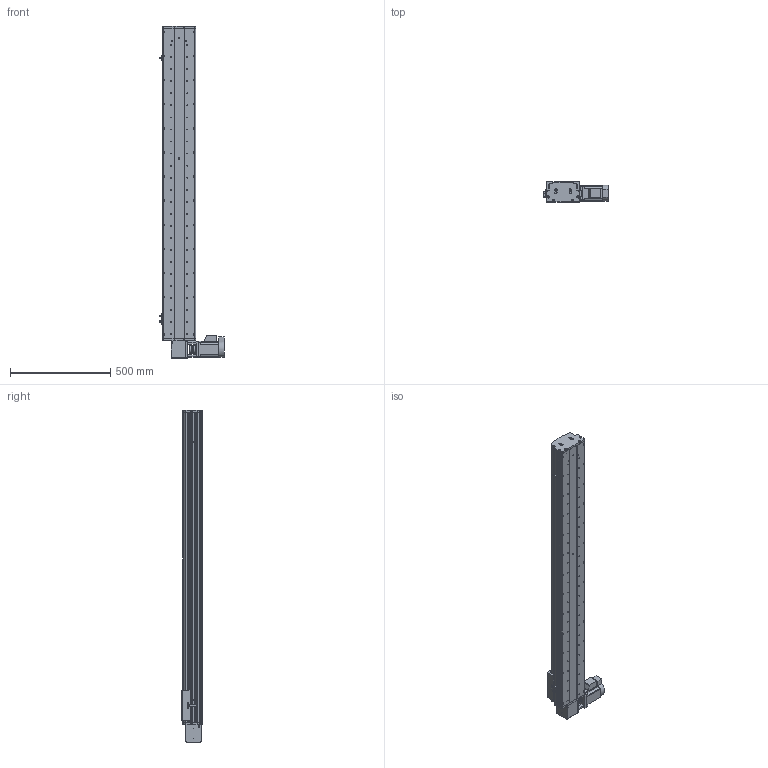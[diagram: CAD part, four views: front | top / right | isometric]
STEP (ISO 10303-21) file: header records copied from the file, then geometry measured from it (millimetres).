
FILE_DESCRIPTION (( 'STEP AP214' ), '1' );
FILE_NAME ('KSD165B-S1300-MRT-CM.STEP', '2017-08-14T06:07:21', ( '微软用户' ), ( '微软中国' ), 'SwSTEP 2.0', 'SolidWorks 2014', '' );
FILE_SCHEMA (( 'AUTOMOTIVE_DESIGN' ));
Length unit declared in the file: millimetre
Products named in the file (16): KSD165耀郪-ヶ傷啣1-肮祭湍; KSD165模组-后端板1-同步带; 130宽马达安装板1-带电机座750W（1）; KSD165模组-同步带滑动座-最新版; KSD165B-S1300-MRT-CM; KSD165模组-同步带防尘盖1-1300行程; KSD165模组同步带底板-1300行程; 拸秶雄ん750W侜督萇儂; 165宽安装板同步带带电机座750W; 165宽马达安装板同步带右; C39ㄜ1419WP; U倰嫖萇假蚾璃; U倰嫖萇EEㄜSX672; 覜茼え68遵圉猾敕; KSD165模组-同步带-防撞垫2; KSD165模组同步带-防撞垫1
Assembly tree (19 placements, depth 2):
  KSD165B-S1300-MRT-CM
    KSD165模组-同步带滑动座-最新版
    130宽马达安装板1-带电机座750W（1）
    KSD165模组-后端板1-同步带
    KSD165耀郪-ヶ傷啣1-肮祭湍
    KSD165模组同步带-防撞垫1
    KSD165模组-同步带-防撞垫2
    覜茼え68遵圉猾敕
    U倰嫖萇EEㄜSX672  x3
    U倰嫖萇假蚾璃  x3
    C39ㄜ1419WP
    165宽马达安装板同步带右
    165宽安装板同步带带电机座750W
    拸秶雄ん750W侜督萇儂
    KSD165模组同步带底板-1300行程
    KSD165模组-同步带防尘盖1-1300行程
Bounding box: 321.2 x 104 x 1654 mm (x, y, z)
Volume: 9242080.3 mm3; surface area: 2098593.6 mm2
Topology: 20 solids, 20 shells, 1554 faces, 4338 edges, 2813 vertices
Faces by surface type: cylinder 875, plane 585, cone 94
Entity records: 50135 total; most frequent: CARTESIAN_POINT 10481, DIRECTION 7764, ORIENTED_EDGE 7328, EDGE_CURVE 3664, AXIS2_PLACEMENT_3D 2968, VERTEX_POINT 2405, LINE 1828, VECTOR 1828
